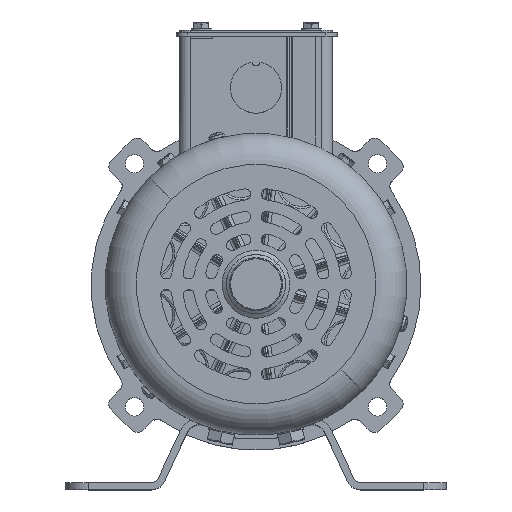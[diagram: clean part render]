
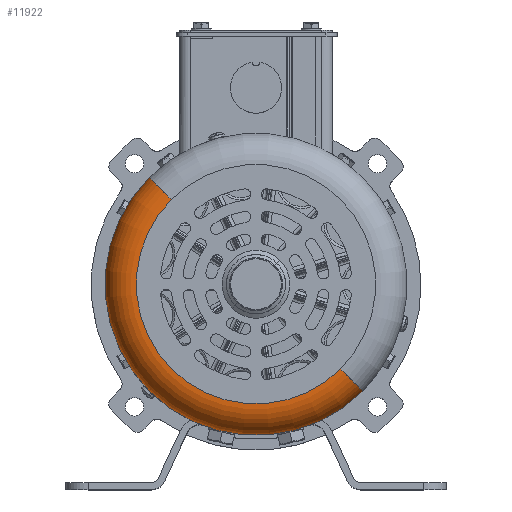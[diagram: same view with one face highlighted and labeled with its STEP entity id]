
A CAD part, top view. The second image highlights one B-rep face of the part: STEP entity #11922.
In plain terms, the highlighted toroidal (fillet/blend) face has major radius 51.943 mm and minor radius 13.589 mm.
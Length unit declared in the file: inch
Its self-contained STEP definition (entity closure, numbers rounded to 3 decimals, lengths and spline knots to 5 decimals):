
#106 = CARTESIAN_POINT ( 'NONE',  ( -1.44603, 1.44603, 13.81056 ) ) ;
#8563 = CARTESIAN_POINT ( 'NONE',  ( -1.44603, 1.44603, 13.27556 ) ) ;
#10861 = ORIENTED_EDGE ( 'NONE', *, *, #27330, .F. ) ;
#11908 = ORIENTED_EDGE ( 'NONE', *, *, #116588, .T. ) ;
#11922 = ADVANCED_FACE ( 'NONE', ( #147134 ), #115809, .T. ) ;
#14734 = ORIENTED_EDGE ( 'NONE', *, *, #100851, .F. ) ;
#15789 = ORIENTED_EDGE ( 'NONE', *, *, #85168, .F. ) ;
#16694 = AXIS2_PLACEMENT_3D ( 'NONE', #32594, #114493, #44468 ) ;
#20420 = DIRECTION ( 'NONE',  ( -0.707, 0.707, 0. ) ) ;
#27330 = EDGE_CURVE ( 'NONE', #55953, #150648, #54216, .T. ) ;
#32594 = CARTESIAN_POINT ( 'NONE',  ( 0., 0., 13.81056 ) ) ;
#43361 = CARTESIAN_POINT ( 'NONE',  ( -1.82434, 1.82434, 13.27556 ) ) ;
#44468 = DIRECTION ( 'NONE',  ( -0.707, 0.707, 0. ) ) ;
#52820 = AXIS2_PLACEMENT_3D ( 'NONE', #137214, #67031, #149046 ) ;
#54216 = CIRCLE ( 'NONE', #117727, 2.58 ) ;
#55891 = EDGE_LOOP ( 'NONE', ( #10861, #11908, #14734, #15789 ) ) ;
#55953 = VERTEX_POINT ( 'NONE', #118104 ) ;
#56053 = CIRCLE ( 'NONE', #52820, 0.535 ) ;
#62143 = CIRCLE ( 'NONE', #16694, 2.045 ) ;
#62252 = AXIS2_PLACEMENT_3D ( 'NONE', #8563, #90579, #20420 ) ;
#65554 = AXIS2_PLACEMENT_3D ( 'NONE', #150315, #150826, #148624 ) ;
#67031 = DIRECTION ( 'NONE',  ( -0.707, -0.707, 0. ) ) ;
#70173 = CIRCLE ( 'NONE', #62252, 0.535 ) ;
#75654 = VERTEX_POINT ( 'NONE', #130428 ) ;
#85168 = EDGE_CURVE ( 'NONE', #150648, #108157, #70173, .T. ) ;
#90579 = DIRECTION ( 'NONE',  ( 0.707, 0.707, 0. ) ) ;
#93472 = DIRECTION ( 'NONE',  ( -0.707, 0.707, 0. ) ) ;
#93502 = DIRECTION ( 'NONE',  ( 0., 0., -1. ) ) ;
#94007 = CARTESIAN_POINT ( 'NONE',  ( 0., 0., 13.27556 ) ) ;
#100851 = EDGE_CURVE ( 'NONE', #108157, #75654, #62143, .T. ) ;
#108157 = VERTEX_POINT ( 'NONE', #106 ) ;
#114493 = DIRECTION ( 'NONE',  ( 0., 0., 1. ) ) ;
#115809 = TOROIDAL_SURFACE ( 'NONE', #65554, 2.045, 0.535 ) ;
#116588 = EDGE_CURVE ( 'NONE', #55953, #75654, #56053, .T. ) ;
#117727 = AXIS2_PLACEMENT_3D ( 'NONE', #94007, #93502, #93472 ) ;
#118104 = CARTESIAN_POINT ( 'NONE',  ( 1.82434, -1.82434, 13.27556 ) ) ;
#130428 = CARTESIAN_POINT ( 'NONE',  ( 1.44603, -1.44603, 13.81056 ) ) ;
#137214 = CARTESIAN_POINT ( 'NONE',  ( 1.44603, -1.44603, 13.27556 ) ) ;
#147134 = FACE_OUTER_BOUND ( 'NONE', #55891, .T. ) ;
#148624 = DIRECTION ( 'NONE',  ( -0.707, 0.707, 0. ) ) ;
#149046 = DIRECTION ( 'NONE',  ( 0.707, -0.707, 0. ) ) ;
#150315 = CARTESIAN_POINT ( 'NONE',  ( 0., 0., 13.27556 ) ) ;
#150648 = VERTEX_POINT ( 'NONE', #43361 ) ;
#150826 = DIRECTION ( 'NONE',  ( 0., 0., 1. ) ) ;
